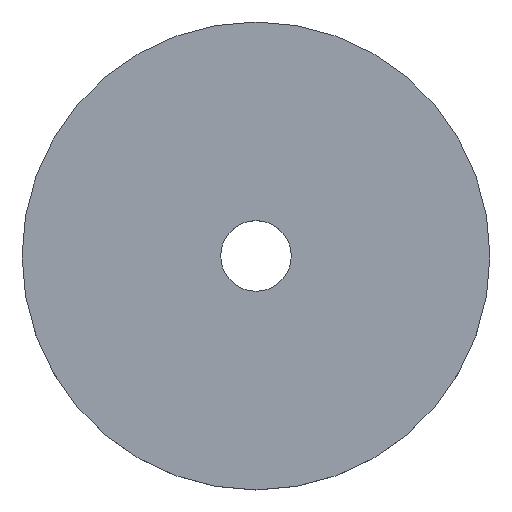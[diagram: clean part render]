
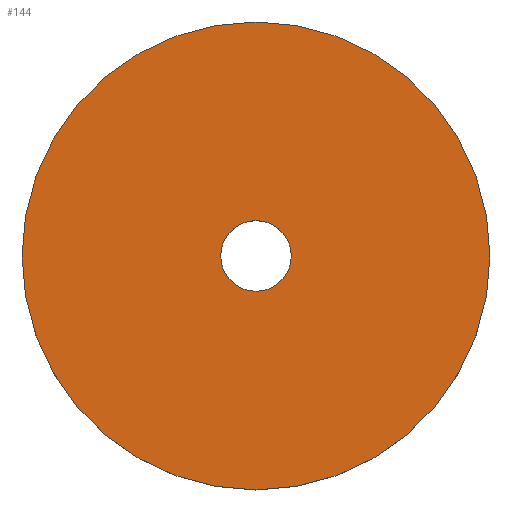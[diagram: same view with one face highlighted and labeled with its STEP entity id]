
A CAD part, top view. The second image highlights one B-rep face of the part: STEP entity #144.
In plain terms, the highlighted planar face has unit normal (0, 0, 1).
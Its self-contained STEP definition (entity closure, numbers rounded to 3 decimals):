
#24 = VERTEX_POINT('',#25);
#25 = CARTESIAN_POINT('',(168.3,96.,33.8));
#32 = CYLINDRICAL_SURFACE('',#33,7.3);
#33 = AXIS2_PLACEMENT_3D('',#34,#35,#36);
#34 = CARTESIAN_POINT('',(161.,96.,32.3));
#35 = DIRECTION('',(-0.,-0.,-1.));
#36 = DIRECTION('',(1.,0.,0.));
#51 = EDGE_CURVE('',#24,#24,#52,.T.);
#52 = SURFACE_CURVE('',#53,(#58,#65),.PCURVE_S1.);
#53 = CIRCLE('',#54,7.3);
#54 = AXIS2_PLACEMENT_3D('',#55,#56,#57);
#55 = CARTESIAN_POINT('',(161.,96.,33.8));
#56 = DIRECTION('',(0.,0.,1.));
#57 = DIRECTION('',(1.,0.,0.));
#58 = PCURVE('',#32,#59);
#59 = DEFINITIONAL_REPRESENTATION('',(#60),#64);
#60 = LINE('',#61,#62);
#61 = CARTESIAN_POINT('',(-0.,-1.5));
#62 = VECTOR('',#63,1.);
#63 = DIRECTION('',(-1.,0.));
#64 = ( GEOMETRIC_REPRESENTATION_CONTEXT(2) 
PARAMETRIC_REPRESENTATION_CONTEXT() REPRESENTATION_CONTEXT('2D SPACE',''
  ) );
#65 = PCURVE('',#66,#71);
#66 = PLANE('',#67);
#67 = AXIS2_PLACEMENT_3D('',#68,#69,#70);
#68 = CARTESIAN_POINT('',(161.,96.,33.8));
#69 = DIRECTION('',(0.,0.,1.));
#70 = DIRECTION('',(1.,0.,-0.));
#71 = DEFINITIONAL_REPRESENTATION('',(#72),#76);
#72 = CIRCLE('',#73,7.3);
#73 = AXIS2_PLACEMENT_2D('',#74,#75);
#74 = CARTESIAN_POINT('',(0.,0.));
#75 = DIRECTION('',(1.,0.));
#76 = ( GEOMETRIC_REPRESENTATION_CONTEXT(2) 
PARAMETRIC_REPRESENTATION_CONTEXT() REPRESENTATION_CONTEXT('2D SPACE',''
  ) );
#133 = CYLINDRICAL_SURFACE('',#134,1.1);
#134 = AXIS2_PLACEMENT_3D('',#135,#136,#137);
#135 = CARTESIAN_POINT('',(161.,96.,32.));
#136 = DIRECTION('',(-0.,-0.,-1.));
#137 = DIRECTION('',(1.,0.,0.));
#144 = ADVANCED_FACE('',(#145,#148),#66,.T.);
#145 = FACE_BOUND('',#146,.T.);
#146 = EDGE_LOOP('',(#147));
#147 = ORIENTED_EDGE('',*,*,#51,.T.);
#148 = FACE_BOUND('',#149,.T.);
#149 = EDGE_LOOP('',(#150));
#150 = ORIENTED_EDGE('',*,*,#151,.T.);
#151 = EDGE_CURVE('',#152,#152,#154,.T.);
#152 = VERTEX_POINT('',#153);
#153 = CARTESIAN_POINT('',(162.1,96.,33.8));
#154 = SURFACE_CURVE('',#155,(#160,#171),.PCURVE_S1.);
#155 = CIRCLE('',#156,1.1);
#156 = AXIS2_PLACEMENT_3D('',#157,#158,#159);
#157 = CARTESIAN_POINT('',(161.,96.,33.8));
#158 = DIRECTION('',(0.,0.,-1.));
#159 = DIRECTION('',(1.,0.,0.));
#160 = PCURVE('',#66,#161);
#161 = DEFINITIONAL_REPRESENTATION('',(#162),#170);
#162 = ( BOUNDED_CURVE() B_SPLINE_CURVE(2,(#163,#164,#165,#166,#167,#168
,#169),.UNSPECIFIED.,.T.,.F.) B_SPLINE_CURVE_WITH_KNOTS((1,2,2,2,2,1),(
    -2.094,0.,2.094,4.189,6.283,
8.378),.UNSPECIFIED.) CURVE() GEOMETRIC_REPRESENTATION_ITEM() 
RATIONAL_B_SPLINE_CURVE((1.,0.5,1.,0.5,1.,0.5,1.)) REPRESENTATION_ITEM(
  '') );
#163 = CARTESIAN_POINT('',(1.1,0.));
#164 = CARTESIAN_POINT('',(1.1,-1.905));
#165 = CARTESIAN_POINT('',(-0.55,-0.953));
#166 = CARTESIAN_POINT('',(-2.2,0.));
#167 = CARTESIAN_POINT('',(-0.55,0.953));
#168 = CARTESIAN_POINT('',(1.1,1.905));
#169 = CARTESIAN_POINT('',(1.1,0.));
#170 = ( GEOMETRIC_REPRESENTATION_CONTEXT(2) 
PARAMETRIC_REPRESENTATION_CONTEXT() REPRESENTATION_CONTEXT('2D SPACE',''
  ) );
#171 = PCURVE('',#133,#172);
#172 = DEFINITIONAL_REPRESENTATION('',(#173),#177);
#173 = LINE('',#174,#175);
#174 = CARTESIAN_POINT('',(-6.283,-1.8));
#175 = VECTOR('',#176,1.);
#176 = DIRECTION('',(1.,-0.));
#177 = ( GEOMETRIC_REPRESENTATION_CONTEXT(2) 
PARAMETRIC_REPRESENTATION_CONTEXT() REPRESENTATION_CONTEXT('2D SPACE',''
  ) );
